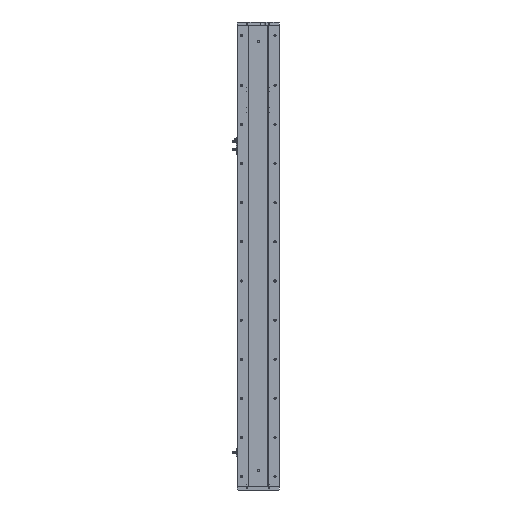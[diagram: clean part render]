
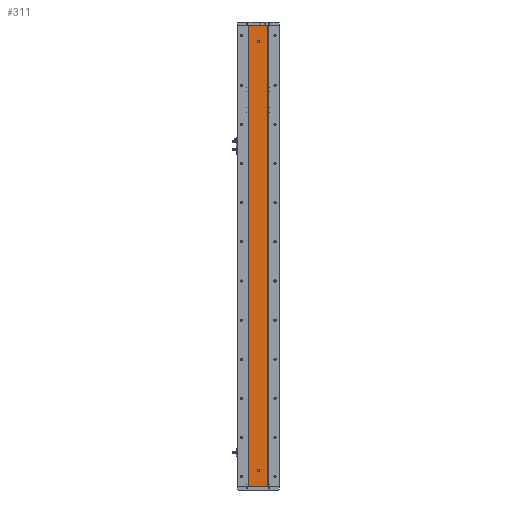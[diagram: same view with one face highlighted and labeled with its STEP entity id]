
A CAD part, left-side view. The second image highlights one B-rep face of the part: STEP entity #311.
In plain terms, the highlighted planar face has unit normal (-1, 0, 0).
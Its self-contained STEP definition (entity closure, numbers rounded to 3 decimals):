
#311 = ADVANCED_FACE ( 'NONE', ( #4100, #12395, #36450 ), #2889, .F. ) ;
#634 = AXIS2_PLACEMENT_3D ( 'NONE', #9306, #31250, #12428 ) ;
#1097 = EDGE_CURVE ( 'NONE', #8573, #28389, #24619, .T. ) ;
#1318 = CARTESIAN_POINT ( 'NONE',  ( -24.994, 0., 50. ) ) ;
#1567 = CARTESIAN_POINT ( 'NONE',  ( -24.994, 0., 53. ) ) ;
#1925 = EDGE_CURVE ( 'NONE', #35682, #33015, #32655, .T. ) ;
#2710 = ORIENTED_EDGE ( 'NONE', *, *, #1097, .T. ) ;
#2780 = CARTESIAN_POINT ( 'NONE',  ( -24.994, 29.785, 1415. ) ) ;
#2889 = PLANE ( 'NONE',  #634 ) ;
#3559 = CARTESIAN_POINT ( 'NONE',  ( -24.994, 0., 1362. ) ) ;
#4100 = FACE_BOUND ( 'NONE', #38820, .T. ) ;
#4301 = CIRCLE ( 'NONE', #25413, 3. ) ;
#4395 = CARTESIAN_POINT ( 'NONE',  ( -24.994, -29.785, 0. ) ) ;
#4457 = DIRECTION ( 'NONE',  ( 0., 0., 1. ) ) ;
#6273 = EDGE_CURVE ( 'NONE', #37117, #21476, #4301, .T. ) ;
#7376 = CARTESIAN_POINT ( 'NONE',  ( -24.994, -29.785, 1415. ) ) ;
#8573 = VERTEX_POINT ( 'NONE', #13243 ) ;
#8828 = CIRCLE ( 'NONE', #35134, 3. ) ;
#8967 = VERTEX_POINT ( 'NONE', #12800 ) ;
#9123 = EDGE_CURVE ( 'NONE', #21476, #37117, #13608, .T. ) ;
#9159 = DIRECTION ( 'NONE',  ( -1., 0., 0. ) ) ;
#9306 = CARTESIAN_POINT ( 'NONE',  ( -24.994, 29.785, 1415. ) ) ;
#9506 = CARTESIAN_POINT ( 'NONE',  ( -24.994, 0., 50. ) ) ;
#9647 = EDGE_LOOP ( 'NONE', ( #2710, #21352, #27243, #12501 ) ) ;
#10563 = VECTOR ( 'NONE', #26173, 1000. ) ;
#10968 = ORIENTED_EDGE ( 'NONE', *, *, #9123, .F. ) ;
#12395 = FACE_BOUND ( 'NONE', #24357, .T. ) ;
#12428 = DIRECTION ( 'NONE',  ( 0., 0., -1. ) ) ;
#12501 = ORIENTED_EDGE ( 'NONE', *, *, #17286, .T. ) ;
#12650 = DIRECTION ( 'NONE',  ( 0., 0., 1. ) ) ;
#12800 = CARTESIAN_POINT ( 'NONE',  ( -24.994, 0., 1368. ) ) ;
#13243 = CARTESIAN_POINT ( 'NONE',  ( -24.994, 29.785, 0. ) ) ;
#13608 = CIRCLE ( 'NONE', #15238, 3. ) ;
#15051 = LINE ( 'NONE', #36874, #31771 ) ;
#15120 = CARTESIAN_POINT ( 'NONE',  ( -24.994, 0., 1365. ) ) ;
#15238 = AXIS2_PLACEMENT_3D ( 'NONE', #1318, #23214, #4457 ) ;
#15944 = VECTOR ( 'NONE', #24686, 1000. ) ;
#17252 = VECTOR ( 'NONE', #23498, 1000. ) ;
#17286 = EDGE_CURVE ( 'NONE', #35682, #8573, #15051, .T. ) ;
#18273 = DIRECTION ( 'NONE',  ( 0., 0., 1. ) ) ;
#19305 = ORIENTED_EDGE ( 'NONE', *, *, #33718, .F. ) ;
#19808 = ORIENTED_EDGE ( 'NONE', *, *, #20477, .F. ) ;
#19863 = ORIENTED_EDGE ( 'NONE', *, *, #6273, .F. ) ;
#20477 = EDGE_CURVE ( 'NONE', #40218, #8967, #24369, .T. ) ;
#20622 = CARTESIAN_POINT ( 'NONE',  ( -24.994, 29.785, 0. ) ) ;
#21144 = DIRECTION ( 'NONE',  ( 0., 0., -1. ) ) ;
#21352 = ORIENTED_EDGE ( 'NONE', *, *, #38654, .F. ) ;
#21476 = VERTEX_POINT ( 'NONE', #1567 ) ;
#23214 = DIRECTION ( 'NONE',  ( -1., 0., 0. ) ) ;
#23498 = DIRECTION ( 'NONE',  ( 0., -1., 0. ) ) ;
#24357 = EDGE_LOOP ( 'NONE', ( #10968, #19863 ) ) ;
#24369 = CIRCLE ( 'NONE', #30042, 3. ) ;
#24619 = LINE ( 'NONE', #20622, #17252 ) ;
#24686 = DIRECTION ( 'NONE',  ( 0., -1., 0. ) ) ;
#25413 = AXIS2_PLACEMENT_3D ( 'NONE', #9506, #31449, #12650 ) ;
#26173 = DIRECTION ( 'NONE',  ( 0., 0., -1. ) ) ;
#27243 = ORIENTED_EDGE ( 'NONE', *, *, #1925, .F. ) ;
#27952 = CARTESIAN_POINT ( 'NONE',  ( -24.994, 0., 1365. ) ) ;
#28389 = VERTEX_POINT ( 'NONE', #4395 ) ;
#29327 = CARTESIAN_POINT ( 'NONE',  ( -24.994, -29.785, 1415. ) ) ;
#30042 = AXIS2_PLACEMENT_3D ( 'NONE', #27952, #9159, #31077 ) ;
#30449 = CARTESIAN_POINT ( 'NONE',  ( -24.994, 29.785, 1415. ) ) ;
#30712 = CARTESIAN_POINT ( 'NONE',  ( -24.994, 0., 47. ) ) ;
#31077 = DIRECTION ( 'NONE',  ( 0., 0., 1. ) ) ;
#31250 = DIRECTION ( 'NONE',  ( 1., 0., 0. ) ) ;
#31449 = DIRECTION ( 'NONE',  ( -1., 0., 0. ) ) ;
#31771 = VECTOR ( 'NONE', #21144, 1000. ) ;
#32655 = LINE ( 'NONE', #2780, #15944 ) ;
#33015 = VERTEX_POINT ( 'NONE', #29327 ) ;
#33718 = EDGE_CURVE ( 'NONE', #8967, #40218, #8828, .T. ) ;
#35134 = AXIS2_PLACEMENT_3D ( 'NONE', #15120, #37062, #18273 ) ;
#35682 = VERTEX_POINT ( 'NONE', #30449 ) ;
#36450 = FACE_OUTER_BOUND ( 'NONE', #9647, .T. ) ;
#36567 = LINE ( 'NONE', #7376, #10563 ) ;
#36874 = CARTESIAN_POINT ( 'NONE',  ( -24.994, 29.785, 1415. ) ) ;
#37062 = DIRECTION ( 'NONE',  ( -1., 0., 0. ) ) ;
#37117 = VERTEX_POINT ( 'NONE', #30712 ) ;
#38654 = EDGE_CURVE ( 'NONE', #33015, #28389, #36567, .T. ) ;
#38820 = EDGE_LOOP ( 'NONE', ( #19305, #19808 ) ) ;
#40218 = VERTEX_POINT ( 'NONE', #3559 ) ;
